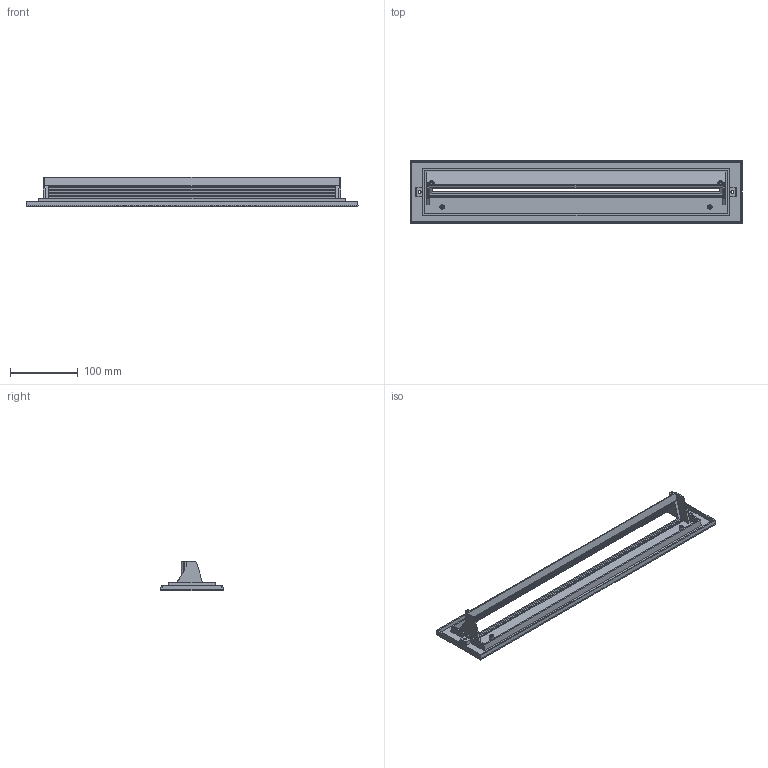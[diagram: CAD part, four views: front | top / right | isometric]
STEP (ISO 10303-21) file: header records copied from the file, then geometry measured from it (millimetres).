
FILE_DESCRIPTION (( 'STEP AP203' ), '1' );
FILE_NAME ('ER7120.STEP', '2023-08-04T15:28:04', ( '' ), ( '' ), 'SwSTEP 2.0', 'SolidWorks 2018', '' );
FILE_SCHEMA (( 'CONFIG_CONTROL_DESIGN' ));
Length unit declared in the file: millimetre
Products named in the file (1): ER7120
Bounding box: 489.69 x 91.69 x 43 mm (x, y, z)
Volume: 164963.1 mm3; surface area: 159964.8 mm2
Topology: 1 solids, 1 shells, 125 faces, 333 edges, 222 vertices
Faces by surface type: plane 97, cylinder 22, cone 6
Entity records: 3972 total; most frequent: CARTESIAN_POINT 765, ORIENTED_EDGE 666, DIRECTION 609, EDGE_CURVE 333, VECTOR 273, LINE 273, VERTEX_POINT 222, AXIS2_PLACEMENT_3D 168
